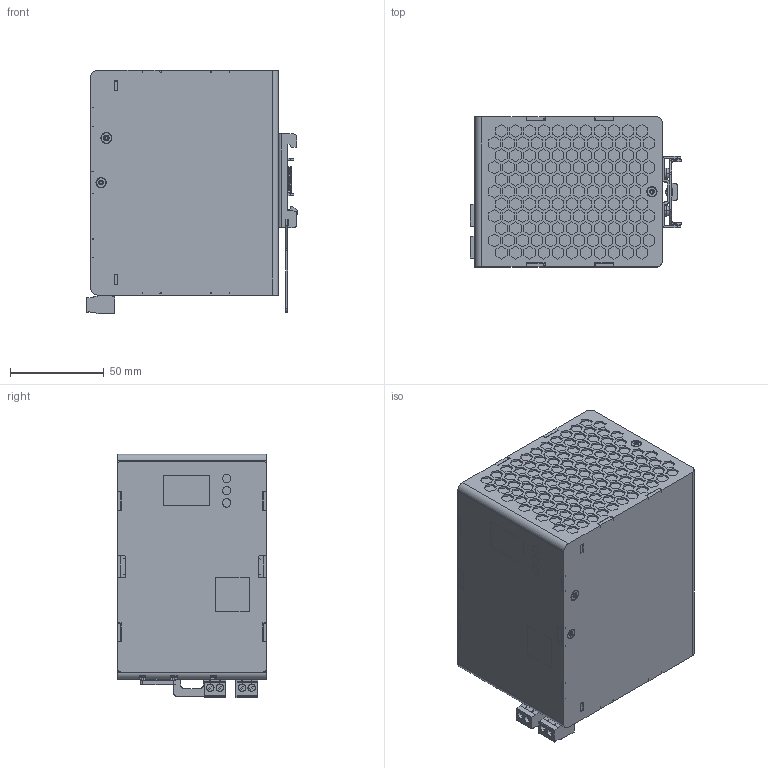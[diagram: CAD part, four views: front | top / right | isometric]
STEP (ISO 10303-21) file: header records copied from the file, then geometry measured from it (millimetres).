
FILE_DESCRIPTION (( 'STEP AP214' ), '1' );
FILE_NAME ('NCP12_3D_light.STEP', '2016-06-30T09:30:36', ( 'miky' ), ( 'Microsoft' ), 'SwSTEP 2.0', 'SolidWorks 2014', '' );
FILE_SCHEMA (( 'AUTOMOTIVE_DESIGN' ));
Length unit declared in the file: millimetre
Products named in the file (1): NCP12_3D_light
Bounding box: 112.98 x 80 x 130.02 mm (x, y, z)
Volume: 960748.9 mm3; surface area: 76850.2 mm2
Topology: 1 solids, 17 shells, 2831 faces, 7467 edges, 4944 vertices
Faces by surface type: plane 2408, cylinder 339, cone 58, torus 16, bspline 10
Entity records: 120959 total; most frequent: CARTESIAN_POINT 18887, ORIENTED_EDGE 14934, DIRECTION 13882, EDGE_CURVE 7467, LINE 6448, VECTOR 6448, VERTEX_POINT 4944, AXIS2_PLACEMENT_3D 3717
